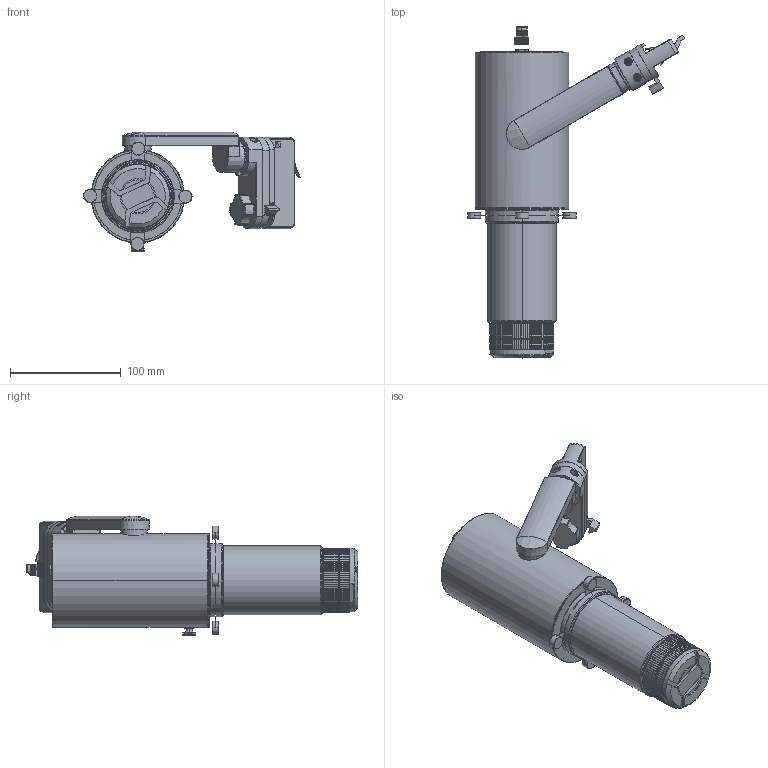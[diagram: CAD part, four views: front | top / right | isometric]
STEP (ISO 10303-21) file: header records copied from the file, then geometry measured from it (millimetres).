
FILE_DESCRIPTION((''),'2;1');
FILE_NAME('SHOWGUN-35-SPOT_ASM','2025-03-27T09:27:42',('ALY'),(''),'CREO PARAMETRIC BY PTC INC, 2022164','CREO PARAMETRIC BY PTC INC, 2022164','');
FILE_SCHEMA(('AUTOMOTIVE_DESIGN { 1 0 10303 214 1 1 1 1 }'));
Length unit declared in the file: millimetre
Products named in the file (23): 00; 0003; 0005; M10-0001; 000; 0008; 0009; D150001; 0010; 0011; M3X8-0001; 000_ASM; 10001; D11X0-500; 0013; 20001; GB834-M4X20; SHOWGUN-SPOT-30W00_ASM; 50600; _X2_96F64EF6_X0_4; 506000_ASM; SHOWGUN-35-SPOT_ASM
Assembly tree (25 placements, depth 4):
  SHOWGUN-35-SPOT_ASM
    SHOWGUN-SPOT-30W00_ASM
      00
      0003
      00
      0005
      M10-0001
      000_ASM
        000
        0008
        0005
        0009
        D150001
        0010
        0011
        M3X8-0001
      10001
      D11X0-500
      0013
      20001
      M3X8-0001  x2
      GB834-M4X20
    506000_ASM
      50600
      _X2_96F64EF6_X0_4
Bounding box: 195.94 x 299.85 x 108.22 mm (x, y, z)
Volume: 634493 mm3; surface area: 275674.2 mm2
Topology: 28 solids, 28 shells, 3540 faces, 10030 edges, 6573 vertices
Faces by surface type: plane 1766, cylinder 795, cone 604, bspline 202, torus 128, sphere 45
Entity records: 186903 total; most frequent: CARTESIAN_POINT 66467, ORIENTED_EDGE 19402, DIRECTION 17006, EDGE_CURVE 9701, VERTEX_POINT 6381, VECTOR 5910, LINE 5910, AXIS2_PLACEMENT_3D 5548
